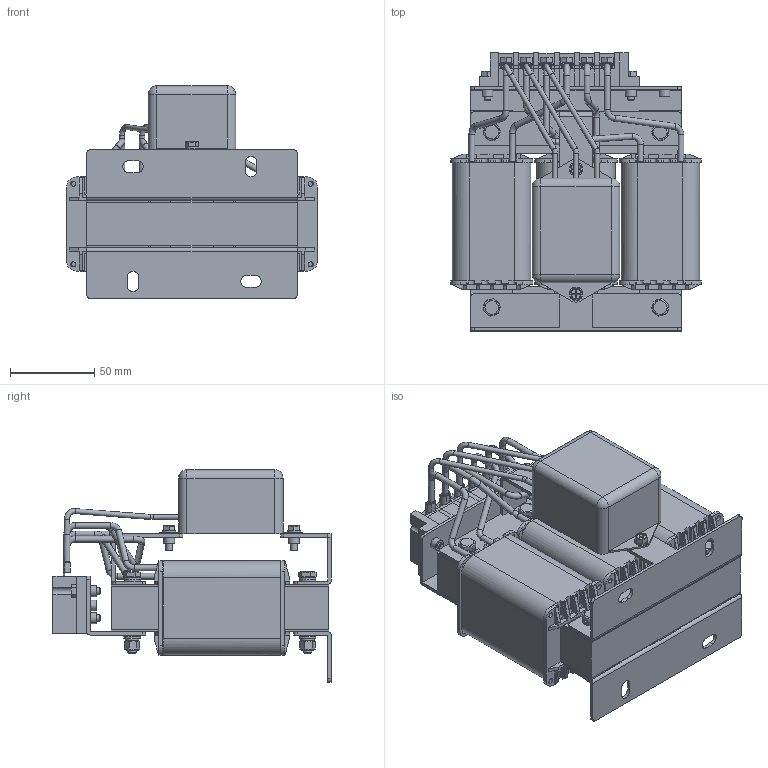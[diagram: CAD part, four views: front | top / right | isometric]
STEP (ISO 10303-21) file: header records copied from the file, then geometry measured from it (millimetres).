
FILE_DESCRIPTION(('STEP AP203'), '1');
FILE_NAME('IDUDT-11_30-4 _ dU_dt ôèëüòð 11 êÂò', '', ('UNSPECIFIED'), ('UNSPECIFIED'), 'C3D Converter', 'C3D Toolkit', '');
FILE_SCHEMA(('CONFIG_CONTROL_DESIGN'));
Length unit declared in the file: millimetre
Products named in the file (21): IDUDT-11/30-4 
Assembly tree (41 placements, depth 3):
  IDUDT-11/30-4 
    (unnamed)
    (unnamed)  x6
    (unnamed)
    (unnamed)
    (unnamed)
    (unnamed)
    (unnamed)
    (unnamed)
    (unnamed)  x6
      (unnamed)
      (unnamed)
    (unnamed)  x6
      (unnamed)
      (unnamed)
      (unnamed)
    (unnamed)  x3
    (unnamed)
    (unnamed)  x2
      (unnamed)
      (unnamed)
    (unnamed)
Bounding box: 148.8 x 165 x 126 mm (x, y, z)
Volume: 978628.3 mm3; surface area: 308348.9 mm2
Topology: 126 solids, 126 shells, 2168 faces, 5510 edges, 3628 vertices
Faces by surface type: plane 1569, cylinder 511, cone 60, torus 24, sphere 4
Full cylindrical faces by diameter (mm): 3 x41, 3.5 x24, 4 x18, 4.134 x6, 4.333 x2, 4.376 x6, 5 x8, 5.4 x6, 5.5 x24, 6.5 x5, 7 x12, 8 x8, 9 x6, 10 x24, 11 x12
Entity records: 55113 total; most frequent: CARTESIAN_POINT 12496, DIRECTION 6159, ORIENTED_EDGE 6016, EDGE_CURVE 3008, LINE 2237, VECTOR 2237, VERTEX_POINT 2079, AXIS2_PLACEMENT_3D 1961
